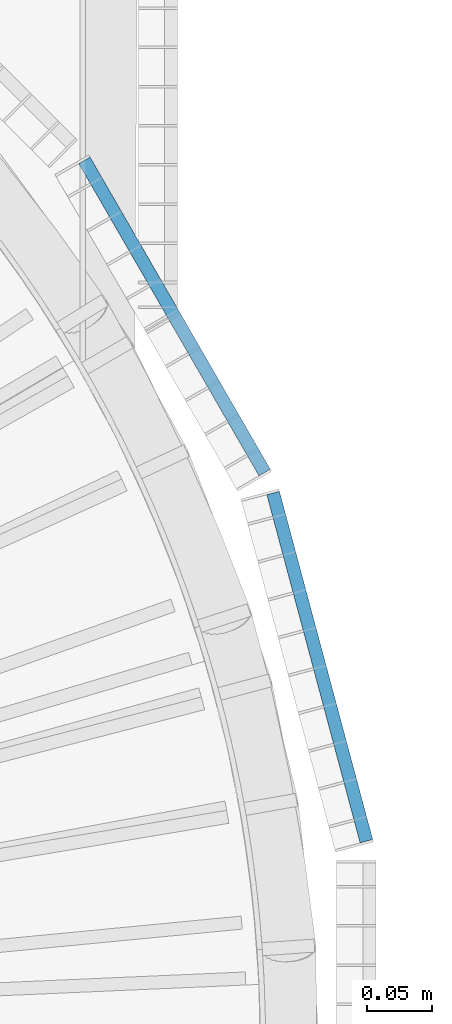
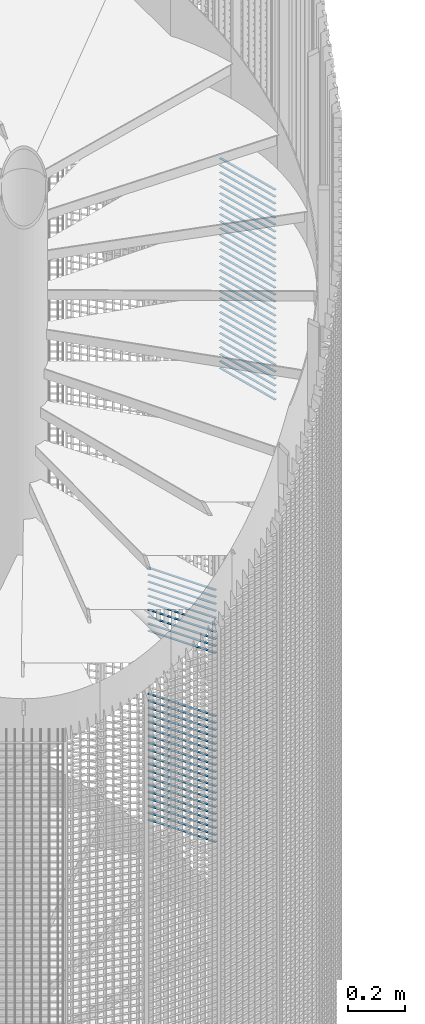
# One storey, part 288 of 1148: 60 beams, 2 elements without a shape of their own.
"""IFC2X3 building model written with IfcOpenShell, lengths in millimetres."""

from ifc_helpers import new_model, si_unit, frame, origin_with_axes, origin_2d_with_axis, place, context, subcontext, project, spatial, rectangle, extrude, material, type_object, element, aggregate, save


model = new_model("IFC2X3")

# Units and contexts
model_context = context("Model", 3, precision=1e-05, world=origin_with_axes())
body_context = subcontext(model_context, "Body", "Model", "MODEL_VIEW")
ifc_project = project(units=[si_unit("LENGTHUNIT", "METRE", prefix="MILLI"), si_unit("AREAUNIT", "SQUARE_METRE"), si_unit("VOLUMEUNIT", "CUBIC_METRE"), si_unit("MASSUNIT", "GRAM", prefix="KILO"), si_unit("TIMEUNIT", "SECOND"), si_unit("PLANEANGLEUNIT", "RADIAN"), si_unit("SOLIDANGLEUNIT", "STERADIAN"), si_unit("THERMODYNAMICTEMPERATUREUNIT", "DEGREE_CELSIUS"), si_unit("LUMINOUSINTENSITYUNIT", "LUMEN")], contexts=[model_context])

# Site, building, storey
site_placement = place(None, origin_with_axes())
site = spatial("IfcSite", under=ifc_project, at=site_placement, Name="Undefined", CompositionType="ELEMENT")
building_placement = place(site_placement, origin_with_axes())
building = spatial("IfcBuilding", under=site, at=building_placement, Name="Undefined", CompositionType="ELEMENT")
storey_placement = place(building_placement, origin_with_axes())
storey = spatial("IfcBuildingStorey", under=building, at=storey_placement, Name="Undefined", CompositionType="ELEMENT", Elevation=0.0)

# Assembly, beams
assembly_1_placement = place(storey_placement, origin_with_axes())
assembly_1 = element("IfcElementAssembly", 1, at=assembly_1_placement, inside=storey, Name="BORDURE", AssemblyPlace="NOTDEFINED", PredefinedType="NOTDEFINED")
ifc_material = material(Name="STEEL/S235JR")
beam_type = type_object("IfcBeamType", Name="PL2*10", PredefinedType="NOTDEFINED")
beam_1_placement = place(assembly_1_placement, frame((1033.29996828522, 437.231955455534, 3570.0), z_axis=(0.866025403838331, 0.499999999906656, 0.0), x_axis=(-0.49999999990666, 0.866025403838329, 0.0)))
beam_1 = element("IfcBeam", 2, at=beam_1_placement, type_object=beam_type, material=ifc_material, Name="ENTRETOISE", context=body_context, shape_type="SweptSolid", body=[
    extrude(rectangle(XDim=2.0, YDim=10.0, at=origin_2d_with_axis()), frame((275.999999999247, 9.09494701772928e-13, 1.53210777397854e-14), z_axis=(-1.0, 0.0, 0.0), x_axis=(0.0, -1.0, 0.0)), (0.0, 0.0, 1.0), 276.0),
])
beam_2_placement = place(assembly_1_placement, frame((1033.29996828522, 437.231955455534, 3540.0), z_axis=(0.866025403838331, 0.499999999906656, 0.0), x_axis=(-0.49999999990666, 0.866025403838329, 0.0)))
beam_2 = element("IfcBeam", 3, at=beam_2_placement, type_object=beam_type, material=ifc_material, Name="ENTRETOISE", context=body_context, shape_type="SweptSolid", body=[
    extrude(rectangle(XDim=2.0, YDim=10.0, at=origin_2d_with_axis()), frame((275.999999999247, 9.09494701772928e-13, 1.53210777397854e-14), z_axis=(-1.0, 0.0, 0.0), x_axis=(0.0, -1.0, 0.0)), (0.0, 0.0, 1.0), 276.0),
])
beam_3_placement = place(assembly_1_placement, frame((1033.29996828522, 437.231955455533, 3840.0), z_axis=(0.866025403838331, 0.499999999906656, 0.0), x_axis=(-0.49999999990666, 0.866025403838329, 0.0)))
beam_3 = element("IfcBeam", 4, at=beam_3_placement, type_object=beam_type, material=ifc_material, Name="ENTRETOISE", context=body_context, shape_type="SweptSolid", body=[
    extrude(rectangle(XDim=2.0, YDim=10.0, at=origin_2d_with_axis()), frame((275.999999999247, 9.09494701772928e-13, 1.53210777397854e-14), z_axis=(-1.0, 0.0, 0.0), x_axis=(0.0, -1.0, 0.0)), (0.0, 0.0, 1.0), 276.0),
])
beam_4_placement = place(assembly_1_placement, frame((1033.29996828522, 437.231955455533, 3510.0), z_axis=(0.866025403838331, 0.499999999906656, 0.0), x_axis=(-0.49999999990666, 0.866025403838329, 0.0)))
beam_4 = element("IfcBeam", 5, at=beam_4_placement, type_object=beam_type, material=ifc_material, Name="ENTRETOISE", context=body_context, shape_type="SweptSolid", body=[
    extrude(rectangle(XDim=2.0, YDim=10.0, at=origin_2d_with_axis()), frame((275.999999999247, 9.09494701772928e-13, 1.53210777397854e-14), z_axis=(-1.0, 0.0, 0.0), x_axis=(0.0, -1.0, 0.0)), (0.0, 0.0, 1.0), 276.0),
])
beam_5_placement = place(assembly_1_placement, frame((1033.29996828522, 437.231955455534, 3480.0), z_axis=(0.866025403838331, 0.499999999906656, 0.0), x_axis=(-0.49999999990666, 0.866025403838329, 0.0)))
beam_5 = element("IfcBeam", 6, at=beam_5_placement, type_object=beam_type, material=ifc_material, Name="ENTRETOISE", context=body_context, shape_type="SweptSolid", body=[
    extrude(rectangle(XDim=2.0, YDim=10.0, at=origin_2d_with_axis()), frame((275.999999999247, 9.09494701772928e-13, 1.53210777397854e-14), z_axis=(-1.0, 0.0, 0.0), x_axis=(0.0, -1.0, 0.0)), (0.0, 0.0, 1.0), 276.0),
])
beam_6_placement = place(assembly_1_placement, frame((1033.29996828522, 437.231955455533, 3870.0), z_axis=(0.866025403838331, 0.499999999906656, 0.0), x_axis=(-0.49999999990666, 0.866025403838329, 0.0)))
beam_6 = element("IfcBeam", 7, at=beam_6_placement, type_object=beam_type, material=ifc_material, Name="ENTRETOISE", context=body_context, shape_type="SweptSolid", body=[
    extrude(rectangle(XDim=2.0, YDim=10.0, at=origin_2d_with_axis()), frame((275.999999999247, 9.09494701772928e-13, 1.53210777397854e-14), z_axis=(-1.0, 0.0, 0.0), x_axis=(0.0, -1.0, 0.0)), (0.0, 0.0, 1.0), 276.0),
])
beam_7_placement = place(assembly_1_placement, frame((1033.29996828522, 437.231955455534, 3450.0), z_axis=(0.866025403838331, 0.499999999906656, 0.0), x_axis=(-0.49999999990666, 0.866025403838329, 0.0)))
beam_7 = element("IfcBeam", 8, at=beam_7_placement, type_object=beam_type, material=ifc_material, Name="ENTRETOISE", context=body_context, shape_type="SweptSolid", body=[
    extrude(rectangle(XDim=2.0, YDim=10.0, at=origin_2d_with_axis()), frame((275.999999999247, 9.09494701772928e-13, 1.53210777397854e-14), z_axis=(-1.0, 0.0, 0.0), x_axis=(0.0, -1.0, 0.0)), (0.0, 0.0, 1.0), 276.0),
])
beam_8_placement = place(assembly_1_placement, frame((1033.29996828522, 437.231955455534, 3420.0), z_axis=(0.866025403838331, 0.499999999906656, 0.0), x_axis=(-0.49999999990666, 0.866025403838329, 0.0)))
beam_8 = element("IfcBeam", 9, at=beam_8_placement, type_object=beam_type, material=ifc_material, Name="ENTRETOISE", context=body_context, shape_type="SweptSolid", body=[
    extrude(rectangle(XDim=2.0, YDim=10.0, at=origin_2d_with_axis()), frame((275.999999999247, 9.09494701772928e-13, 1.53210777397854e-14), z_axis=(-1.0, 0.0, 0.0), x_axis=(0.0, -1.0, 0.0)), (0.0, 0.0, 1.0), 276.0),
])
beam_9_placement = place(assembly_1_placement, frame((1033.29996828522, 437.231955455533, 3900.0), z_axis=(0.866025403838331, 0.499999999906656, 0.0), x_axis=(-0.49999999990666, 0.866025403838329, 0.0)))
beam_9 = element("IfcBeam", 10, at=beam_9_placement, type_object=beam_type, material=ifc_material, Name="ENTRETOISE", context=body_context, shape_type="SweptSolid", body=[
    extrude(rectangle(XDim=2.0, YDim=10.0, at=origin_2d_with_axis()), frame((275.999999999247, 9.09494701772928e-13, 1.53210777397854e-14), z_axis=(-1.0, 0.0, 0.0), x_axis=(0.0, -1.0, 0.0)), (0.0, 0.0, 1.0), 276.0),
])
beam_10_placement = place(assembly_1_placement, frame((1033.29996828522, 437.231955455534, 3390.0), z_axis=(0.866025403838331, 0.499999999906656, 0.0), x_axis=(-0.49999999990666, 0.866025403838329, 0.0)))
beam_10 = element("IfcBeam", 11, at=beam_10_placement, type_object=beam_type, material=ifc_material, Name="ENTRETOISE", context=body_context, shape_type="SweptSolid", body=[
    extrude(rectangle(XDim=2.0, YDim=10.0, at=origin_2d_with_axis()), frame((275.999999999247, 9.09494701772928e-13, 1.53210777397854e-14), z_axis=(-1.0, 0.0, 0.0), x_axis=(0.0, -1.0, 0.0)), (0.0, 0.0, 1.0), 276.0),
])
beam_11_placement = place(assembly_1_placement, frame((1033.29996828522, 437.231955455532, 3930.0), z_axis=(0.866025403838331, 0.499999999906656, 0.0), x_axis=(-0.49999999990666, 0.866025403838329, 0.0)))
beam_11 = element("IfcBeam", 12, at=beam_11_placement, type_object=beam_type, material=ifc_material, Name="ENTRETOISE", context=body_context, shape_type="SweptSolid", body=[
    extrude(rectangle(XDim=2.0, YDim=10.0, at=origin_2d_with_axis()), frame((275.999999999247, 9.09494701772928e-13, 1.53210777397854e-14), z_axis=(-1.0, 0.0, 0.0), x_axis=(0.0, -1.0, 0.0)), (0.0, 0.0, 1.0), 276.0),
])
beam_12_placement = place(assembly_1_placement, frame((1033.29996828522, 437.231955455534, 3360.0), z_axis=(0.866025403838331, 0.499999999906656, 0.0), x_axis=(-0.49999999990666, 0.866025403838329, 0.0)))
beam_12 = element("IfcBeam", 13, at=beam_12_placement, type_object=beam_type, material=ifc_material, Name="ENTRETOISE", context=body_context, shape_type="SweptSolid", body=[
    extrude(rectangle(XDim=2.0, YDim=10.0, at=origin_2d_with_axis()), frame((275.999999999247, 9.09494701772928e-13, 1.53210777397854e-14), z_axis=(-1.0, 0.0, 0.0), x_axis=(0.0, -1.0, 0.0)), (0.0, 0.0, 1.0), 276.0),
])
beam_13_placement = place(assembly_1_placement, frame((1033.29996828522, 437.231955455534, 3330.0), z_axis=(0.866025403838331, 0.499999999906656, 0.0), x_axis=(-0.49999999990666, 0.866025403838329, 0.0)))
beam_13 = element("IfcBeam", 14, at=beam_13_placement, type_object=beam_type, material=ifc_material, Name="ENTRETOISE", context=body_context, shape_type="SweptSolid", body=[
    extrude(rectangle(XDim=2.0, YDim=10.0, at=origin_2d_with_axis()), frame((275.999999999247, 9.09494701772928e-13, 1.53210777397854e-14), z_axis=(-1.0, 0.0, 0.0), x_axis=(0.0, -1.0, 0.0)), (0.0, 0.0, 1.0), 276.0),
])
beam_14_placement = place(assembly_1_placement, frame((1033.29996828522, 437.231955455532, 3960.0), z_axis=(0.866025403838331, 0.499999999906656, 0.0), x_axis=(-0.49999999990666, 0.866025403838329, 0.0)))
beam_14 = element("IfcBeam", 15, at=beam_14_placement, type_object=beam_type, material=ifc_material, Name="ENTRETOISE", context=body_context, shape_type="SweptSolid", body=[
    extrude(rectangle(XDim=2.0, YDim=10.0, at=origin_2d_with_axis()), frame((275.999999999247, 9.09494701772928e-13, 1.53210777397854e-14), z_axis=(-1.0, 0.0, 0.0), x_axis=(0.0, -1.0, 0.0)), (0.0, 0.0, 1.0), 276.0),
])
beam_15_placement = place(assembly_1_placement, frame((1033.29996828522, 437.231955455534, 3300.0), z_axis=(0.866025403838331, 0.499999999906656, 0.0), x_axis=(-0.49999999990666, 0.866025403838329, 0.0)))
beam_15 = element("IfcBeam", 16, at=beam_15_placement, type_object=beam_type, material=ifc_material, Name="ENTRETOISE", context=body_context, shape_type="SweptSolid", body=[
    extrude(rectangle(XDim=2.0, YDim=10.0, at=origin_2d_with_axis()), frame((275.999999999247, 9.09494701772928e-13, 1.53210777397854e-14), z_axis=(-1.0, 0.0, 0.0), x_axis=(0.0, -1.0, 0.0)), (0.0, 0.0, 1.0), 276.0),
])
beam_16_placement = place(assembly_1_placement, frame((1033.29996828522, 437.231955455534, 3270.0), z_axis=(0.866025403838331, 0.499999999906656, 0.0), x_axis=(-0.49999999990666, 0.866025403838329, 0.0)))
beam_16 = element("IfcBeam", 17, at=beam_16_placement, type_object=beam_type, material=ifc_material, Name="ENTRETOISE", context=body_context, shape_type="SweptSolid", body=[
    extrude(rectangle(XDim=2.0, YDim=10.0, at=origin_2d_with_axis()), frame((275.999999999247, 9.09494701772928e-13, 1.53210777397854e-14), z_axis=(-1.0, 0.0, 0.0), x_axis=(0.0, -1.0, 0.0)), (0.0, 0.0, 1.0), 276.0),
])
beam_17_placement = place(assembly_1_placement, frame((1033.29996828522, 437.231955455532, 3990.0), z_axis=(0.866025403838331, 0.499999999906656, 0.0), x_axis=(-0.49999999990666, 0.866025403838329, 0.0)))
beam_17 = element("IfcBeam", 18, at=beam_17_placement, type_object=beam_type, material=ifc_material, Name="ENTRETOISE", context=body_context, shape_type="SweptSolid", body=[
    extrude(rectangle(XDim=2.0, YDim=10.0, at=origin_2d_with_axis()), frame((275.999999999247, 9.09494701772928e-13, 1.53210777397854e-14), z_axis=(-1.0, 0.0, 0.0), x_axis=(0.0, -1.0, 0.0)), (0.0, 0.0, 1.0), 276.0),
])
beam_18_placement = place(assembly_1_placement, frame((1033.29996828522, 437.231955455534, 3240.0), z_axis=(0.866025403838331, 0.499999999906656, 0.0), x_axis=(-0.49999999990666, 0.866025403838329, 0.0)))
beam_18 = element("IfcBeam", 19, at=beam_18_placement, type_object=beam_type, material=ifc_material, Name="ENTRETOISE", context=body_context, shape_type="SweptSolid", body=[
    extrude(rectangle(XDim=2.0, YDim=10.0, at=origin_2d_with_axis()), frame((275.999999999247, 9.09494701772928e-13, 1.53210777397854e-14), z_axis=(-1.0, 0.0, 0.0), x_axis=(0.0, -1.0, 0.0)), (0.0, 0.0, 1.0), 276.0),
])
beam_19_placement = place(assembly_1_placement, frame((1033.29996828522, 437.231955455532, 4020.0), z_axis=(0.866025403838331, 0.499999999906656, 0.0), x_axis=(-0.49999999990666, 0.866025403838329, 0.0)))
beam_19 = element("IfcBeam", 20, at=beam_19_placement, type_object=beam_type, material=ifc_material, Name="ENTRETOISE", context=body_context, shape_type="SweptSolid", body=[
    extrude(rectangle(XDim=2.0, YDim=10.0, at=origin_2d_with_axis()), frame((275.999999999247, 9.09494701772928e-13, 1.53210777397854e-14), z_axis=(-1.0, 0.0, 0.0), x_axis=(0.0, -1.0, 0.0)), (0.0, 0.0, 1.0), 276.0),
])
beam_20_placement = place(assembly_1_placement, frame((1033.29996828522, 437.231955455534, 3210.0), z_axis=(0.866025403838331, 0.499999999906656, 0.0), x_axis=(-0.49999999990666, 0.866025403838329, 0.0)))
beam_20 = element("IfcBeam", 21, at=beam_20_placement, type_object=beam_type, material=ifc_material, Name="ENTRETOISE", context=body_context, shape_type="SweptSolid", body=[
    extrude(rectangle(XDim=2.0, YDim=10.0, at=origin_2d_with_axis()), frame((275.999999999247, 9.09494701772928e-13, 1.53210777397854e-14), z_axis=(-1.0, 0.0, 0.0), x_axis=(0.0, -1.0, 0.0)), (0.0, 0.0, 1.0), 276.0),
])
beam_21_placement = place(assembly_1_placement, frame((1033.29996828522, 437.231955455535, 3180.0), z_axis=(0.866025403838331, 0.499999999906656, 0.0), x_axis=(-0.49999999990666, 0.866025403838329, 0.0)))
beam_21 = element("IfcBeam", 22, at=beam_21_placement, type_object=beam_type, material=ifc_material, Name="ENTRETOISE", context=body_context, shape_type="SweptSolid", body=[
    extrude(rectangle(XDim=2.0, YDim=10.0, at=origin_2d_with_axis()), frame((275.999999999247, 9.09494701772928e-13, 1.53210777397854e-14), z_axis=(-1.0, 0.0, 0.0), x_axis=(0.0, -1.0, 0.0)), (0.0, 0.0, 1.0), 276.0),
])
beam_22_placement = place(assembly_1_placement, frame((1033.29996828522, 437.231955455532, 4050.0), z_axis=(0.866025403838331, 0.499999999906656, 0.0), x_axis=(-0.49999999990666, 0.866025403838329, 0.0)))
beam_22 = element("IfcBeam", 23, at=beam_22_placement, type_object=beam_type, material=ifc_material, Name="ENTRETOISE", context=body_context, shape_type="SweptSolid", body=[
    extrude(rectangle(XDim=2.0, YDim=10.0, at=origin_2d_with_axis()), frame((275.999999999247, 9.09494701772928e-13, 1.53210777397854e-14), z_axis=(-1.0, 0.0, 0.0), x_axis=(0.0, -1.0, 0.0)), (0.0, 0.0, 1.0), 276.0),
])
beam_23_placement = place(assembly_1_placement, frame((1033.29996828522, 437.231955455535, 3150.0), z_axis=(0.866025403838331, 0.499999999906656, 0.0), x_axis=(-0.49999999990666, 0.866025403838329, 0.0)))
beam_23 = element("IfcBeam", 24, at=beam_23_placement, type_object=beam_type, material=ifc_material, Name="ENTRETOISE", context=body_context, shape_type="SweptSolid", body=[
    extrude(rectangle(XDim=2.0, YDim=10.0, at=origin_2d_with_axis()), frame((275.999999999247, 9.09494701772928e-13, 1.53210777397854e-14), z_axis=(-1.0, 0.0, 0.0), x_axis=(0.0, -1.0, 0.0)), (0.0, 0.0, 1.0), 276.0),
])
beam_24_placement = place(assembly_1_placement, frame((1033.29996828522, 437.231955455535, 3120.0), z_axis=(0.866025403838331, 0.499999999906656, 0.0), x_axis=(-0.49999999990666, 0.866025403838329, 0.0)))
beam_24 = element("IfcBeam", 25, at=beam_24_placement, type_object=beam_type, material=ifc_material, Name="ENTRETOISE", context=body_context, shape_type="SweptSolid", body=[
    extrude(rectangle(XDim=2.0, YDim=10.0, at=origin_2d_with_axis()), frame((275.999999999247, 9.09494701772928e-13, 1.53210777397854e-14), z_axis=(-1.0, 0.0, 0.0), x_axis=(0.0, -1.0, 0.0)), (0.0, 0.0, 1.0), 276.0),
])
beam_25_placement = place(assembly_1_placement, frame((1033.29996828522, 437.231955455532, 4080.0), z_axis=(0.866025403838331, 0.499999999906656, 0.0), x_axis=(-0.49999999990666, 0.866025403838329, 0.0)))
beam_25 = element("IfcBeam", 26, at=beam_25_placement, type_object=beam_type, material=ifc_material, Name="ENTRETOISE", context=body_context, shape_type="SweptSolid", body=[
    extrude(rectangle(XDim=2.0, YDim=10.0, at=origin_2d_with_axis()), frame((275.999999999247, 9.09494701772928e-13, 1.53210777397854e-14), z_axis=(-1.0, 0.0, 0.0), x_axis=(0.0, -1.0, 0.0)), (0.0, 0.0, 1.0), 276.0),
])
beam_26_placement = place(assembly_1_placement, frame((1033.29996828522, 437.231955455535, 3090.0), z_axis=(0.866025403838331, 0.499999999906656, 0.0), x_axis=(-0.49999999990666, 0.866025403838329, 0.0)))
beam_26 = element("IfcBeam", 27, at=beam_26_placement, type_object=beam_type, material=ifc_material, Name="ENTRETOISE", context=body_context, shape_type="SweptSolid", body=[
    extrude(rectangle(XDim=2.0, YDim=10.0, at=origin_2d_with_axis()), frame((275.999999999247, 9.09494701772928e-13, 1.53210777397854e-14), z_axis=(-1.0, 0.0, 0.0), x_axis=(0.0, -1.0, 0.0)), (0.0, 0.0, 1.0), 276.0),
])
beam_27_placement = place(assembly_1_placement, frame((1033.29996828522, 437.231955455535, 3060.0), z_axis=(0.866025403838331, 0.499999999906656, 0.0), x_axis=(-0.49999999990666, 0.866025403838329, 0.0)))
beam_27 = element("IfcBeam", 28, at=beam_27_placement, type_object=beam_type, material=ifc_material, Name="ENTRETOISE", context=body_context, shape_type="SweptSolid", body=[
    extrude(rectangle(XDim=2.0, YDim=10.0, at=origin_2d_with_axis()), frame((275.999999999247, 9.09494701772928e-13, 1.53210777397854e-14), z_axis=(-1.0, 0.0, 0.0), x_axis=(0.0, -1.0, 0.0)), (0.0, 0.0, 1.0), 276.0),
])
beam_28_placement = place(assembly_1_placement, frame((1033.29996828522, 437.231955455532, 4110.0), z_axis=(0.866025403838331, 0.499999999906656, 0.0), x_axis=(-0.49999999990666, 0.866025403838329, 0.0)))
beam_28 = element("IfcBeam", 29, at=beam_28_placement, type_object=beam_type, material=ifc_material, Name="ENTRETOISE", context=body_context, shape_type="SweptSolid", body=[
    extrude(rectangle(XDim=2.0, YDim=10.0, at=origin_2d_with_axis()), frame((275.999999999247, 9.09494701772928e-13, 1.53210777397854e-14), z_axis=(-1.0, 0.0, 0.0), x_axis=(0.0, -1.0, 0.0)), (0.0, 0.0, 1.0), 276.0),
])
beam_29_placement = place(assembly_1_placement, frame((1033.29996828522, 437.231955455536, 3030.0), z_axis=(0.866025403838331, 0.499999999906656, 0.0), x_axis=(-0.49999999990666, 0.866025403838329, 0.0)))
beam_29 = element("IfcBeam", 30, at=beam_29_placement, type_object=beam_type, material=ifc_material, Name="ENTRETOISE", context=body_context, shape_type="SweptSolid", body=[
    extrude(rectangle(XDim=2.0, YDim=10.0, at=origin_2d_with_axis()), frame((275.999999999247, 9.09494701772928e-13, 1.53210777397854e-14), z_axis=(-1.0, 0.0, 0.0), x_axis=(0.0, -1.0, 0.0)), (0.0, 0.0, 1.0), 276.0),
])
aggregate(assembly_1, [beam_1, beam_2, beam_3, beam_4, beam_5, beam_6, beam_7, beam_8, beam_9, beam_10, beam_11, beam_12, beam_13, beam_14, beam_15, beam_16, beam_17, beam_18, beam_19, beam_20, beam_21, beam_22, beam_23, beam_24, beam_25, beam_26, beam_27, beam_28, beam_29])

assembly_2_placement = place(storey_placement, origin_with_axes())
assembly_2 = element("IfcElementAssembly", 31, at=assembly_2_placement, inside=storey, Name="BORDURE", AssemblyPlace="NOTDEFINED", PredefinedType="NOTDEFINED")
beam_30_placement = place(assembly_2_placement, frame((1111.25508286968, 154.895926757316, 5970.0), z_axis=(0.965925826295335, 0.258819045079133, 0.0), x_axis=(-0.258819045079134, 0.965925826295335, 0.0)))
beam_30 = element("IfcBeam", 32, at=beam_30_placement, type_object=beam_type, material=ifc_material, Name="ENTRETOISE", context=body_context, shape_type="SweptSolid", body=[
    extrude(rectangle(XDim=2.0, YDim=10.0, at=origin_2d_with_axis()), frame((275.999999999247, 9.09494701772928e-13, 1.53210777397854e-14), z_axis=(-1.0, 0.0, 0.0), x_axis=(0.0, -1.0, 0.0)), (0.0, 0.0, 1.0), 276.0),
])
beam_31_placement = place(assembly_2_placement, frame((1111.25508286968, 154.895926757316, 5940.0), z_axis=(0.965925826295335, 0.258819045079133, 0.0), x_axis=(-0.258819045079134, 0.965925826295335, 0.0)))
beam_31 = element("IfcBeam", 33, at=beam_31_placement, type_object=beam_type, material=ifc_material, Name="ENTRETOISE", context=body_context, shape_type="SweptSolid", body=[
    extrude(rectangle(XDim=2.0, YDim=10.0, at=origin_2d_with_axis()), frame((275.999999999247, 9.09494701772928e-13, 1.53210777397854e-14), z_axis=(-1.0, 0.0, 0.0), x_axis=(0.0, -1.0, 0.0)), (0.0, 0.0, 1.0), 276.0),
])
beam_32_placement = place(assembly_2_placement, frame((1111.25508286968, 154.895926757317, 5910.0), z_axis=(0.965925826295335, 0.258819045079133, 0.0), x_axis=(-0.258819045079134, 0.965925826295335, 0.0)))
beam_32 = element("IfcBeam", 34, at=beam_32_placement, type_object=beam_type, material=ifc_material, Name="ENTRETOISE", context=body_context, shape_type="SweptSolid", body=[
    extrude(rectangle(XDim=2.0, YDim=10.0, at=origin_2d_with_axis()), frame((275.999999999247, 9.09494701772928e-13, 1.53210777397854e-14), z_axis=(-1.0, 0.0, 0.0), x_axis=(0.0, -1.0, 0.0)), (0.0, 0.0, 1.0), 276.0),
])
beam_33_placement = place(assembly_2_placement, frame((1111.25508286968, 154.895926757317, 5880.0), z_axis=(0.965925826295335, 0.258819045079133, 0.0), x_axis=(-0.258819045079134, 0.965925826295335, 0.0)))
beam_33 = element("IfcBeam", 35, at=beam_33_placement, type_object=beam_type, material=ifc_material, Name="ENTRETOISE", context=body_context, shape_type="SweptSolid", body=[
    extrude(rectangle(XDim=2.0, YDim=10.0, at=origin_2d_with_axis()), frame((275.999999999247, 9.09494701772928e-13, 1.53210777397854e-14), z_axis=(-1.0, 0.0, 0.0), x_axis=(0.0, -1.0, 0.0)), (0.0, 0.0, 1.0), 276.0),
])
beam_34_placement = place(assembly_2_placement, frame((1111.25508286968, 154.895926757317, 5850.0), z_axis=(0.965925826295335, 0.258819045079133, 0.0), x_axis=(-0.258819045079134, 0.965925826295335, 0.0)))
beam_34 = element("IfcBeam", 36, at=beam_34_placement, type_object=beam_type, material=ifc_material, Name="ENTRETOISE", context=body_context, shape_type="SweptSolid", body=[
    extrude(rectangle(XDim=2.0, YDim=10.0, at=origin_2d_with_axis()), frame((275.999999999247, 9.09494701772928e-13, 1.53210777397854e-14), z_axis=(-1.0, 0.0, 0.0), x_axis=(0.0, -1.0, 0.0)), (0.0, 0.0, 1.0), 276.0),
])
beam_35_placement = place(assembly_2_placement, frame((1111.25508286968, 154.895926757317, 5820.0), z_axis=(0.965925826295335, 0.258819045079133, 0.0), x_axis=(-0.258819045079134, 0.965925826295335, 0.0)))
beam_35 = element("IfcBeam", 37, at=beam_35_placement, type_object=beam_type, material=ifc_material, Name="ENTRETOISE", context=body_context, shape_type="SweptSolid", body=[
    extrude(rectangle(XDim=2.0, YDim=10.0, at=origin_2d_with_axis()), frame((275.999999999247, 9.09494701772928e-13, 1.53210777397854e-14), z_axis=(-1.0, 0.0, 0.0), x_axis=(0.0, -1.0, 0.0)), (0.0, 0.0, 1.0), 276.0),
])
beam_36_placement = place(assembly_2_placement, frame((1111.25508286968, 154.895926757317, 5790.0), z_axis=(0.965925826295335, 0.258819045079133, 0.0), x_axis=(-0.258819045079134, 0.965925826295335, 0.0)))
beam_36 = element("IfcBeam", 38, at=beam_36_placement, type_object=beam_type, material=ifc_material, Name="ENTRETOISE", context=body_context, shape_type="SweptSolid", body=[
    extrude(rectangle(XDim=2.0, YDim=10.0, at=origin_2d_with_axis()), frame((275.999999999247, 9.09494701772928e-13, 1.53210777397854e-14), z_axis=(-1.0, 0.0, 0.0), x_axis=(0.0, -1.0, 0.0)), (0.0, 0.0, 1.0), 276.0),
])
beam_37_placement = place(assembly_2_placement, frame((1111.25508286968, 154.895926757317, 5760.0), z_axis=(0.965925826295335, 0.258819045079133, 0.0), x_axis=(-0.258819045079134, 0.965925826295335, 0.0)))
beam_37 = element("IfcBeam", 39, at=beam_37_placement, type_object=beam_type, material=ifc_material, Name="ENTRETOISE", context=body_context, shape_type="SweptSolid", body=[
    extrude(rectangle(XDim=2.0, YDim=10.0, at=origin_2d_with_axis()), frame((275.999999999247, 9.09494701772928e-13, 1.53210777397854e-14), z_axis=(-1.0, 0.0, 0.0), x_axis=(0.0, -1.0, 0.0)), (0.0, 0.0, 1.0), 276.0),
])
beam_38_placement = place(assembly_2_placement, frame((1111.25508286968, 154.895926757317, 5730.0), z_axis=(0.965925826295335, 0.258819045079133, 0.0), x_axis=(-0.258819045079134, 0.965925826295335, 0.0)))
beam_38 = element("IfcBeam", 40, at=beam_38_placement, type_object=beam_type, material=ifc_material, Name="ENTRETOISE", context=body_context, shape_type="SweptSolid", body=[
    extrude(rectangle(XDim=2.0, YDim=10.0, at=origin_2d_with_axis()), frame((275.999999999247, 9.09494701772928e-13, 1.53210777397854e-14), z_axis=(-1.0, 0.0, 0.0), x_axis=(0.0, -1.0, 0.0)), (0.0, 0.0, 1.0), 276.0),
])
beam_39_placement = place(assembly_2_placement, frame((1111.25508286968, 154.895926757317, 5700.0), z_axis=(0.965925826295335, 0.258819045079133, 0.0), x_axis=(-0.258819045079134, 0.965925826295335, 0.0)))
beam_39 = element("IfcBeam", 41, at=beam_39_placement, type_object=beam_type, material=ifc_material, Name="ENTRETOISE", context=body_context, shape_type="SweptSolid", body=[
    extrude(rectangle(XDim=2.0, YDim=10.0, at=origin_2d_with_axis()), frame((275.999999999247, 9.09494701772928e-13, 1.53210777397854e-14), z_axis=(-1.0, 0.0, 0.0), x_axis=(0.0, -1.0, 0.0)), (0.0, 0.0, 1.0), 276.0),
])
beam_40_placement = place(assembly_2_placement, frame((1111.25508286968, 154.895926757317, 5670.0), z_axis=(0.965925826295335, 0.258819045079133, 0.0), x_axis=(-0.258819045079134, 0.965925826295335, 0.0)))
beam_40 = element("IfcBeam", 42, at=beam_40_placement, type_object=beam_type, material=ifc_material, Name="ENTRETOISE", context=body_context, shape_type="SweptSolid", body=[
    extrude(rectangle(XDim=2.0, YDim=10.0, at=origin_2d_with_axis()), frame((275.999999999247, 9.09494701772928e-13, 1.53210777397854e-14), z_axis=(-1.0, 0.0, 0.0), x_axis=(0.0, -1.0, 0.0)), (0.0, 0.0, 1.0), 276.0),
])
beam_41_placement = place(assembly_2_placement, frame((1111.25508286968, 154.895926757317, 5640.0), z_axis=(0.965925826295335, 0.258819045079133, 0.0), x_axis=(-0.258819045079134, 0.965925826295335, 0.0)))
beam_41 = element("IfcBeam", 43, at=beam_41_placement, type_object=beam_type, material=ifc_material, Name="ENTRETOISE", context=body_context, shape_type="SweptSolid", body=[
    extrude(rectangle(XDim=2.0, YDim=10.0, at=origin_2d_with_axis()), frame((275.999999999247, 9.09494701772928e-13, 1.53210777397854e-14), z_axis=(-1.0, 0.0, 0.0), x_axis=(0.0, -1.0, 0.0)), (0.0, 0.0, 1.0), 276.0),
])
beam_42_placement = place(assembly_2_placement, frame((1111.25508286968, 154.895926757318, 5610.0), z_axis=(0.965925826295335, 0.258819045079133, 0.0), x_axis=(-0.258819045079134, 0.965925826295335, 0.0)))
beam_42 = element("IfcBeam", 44, at=beam_42_placement, type_object=beam_type, material=ifc_material, Name="ENTRETOISE", context=body_context, shape_type="SweptSolid", body=[
    extrude(rectangle(XDim=2.0, YDim=10.0, at=origin_2d_with_axis()), frame((275.999999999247, 9.09494701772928e-13, 1.53210777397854e-14), z_axis=(-1.0, 0.0, 0.0), x_axis=(0.0, -1.0, 0.0)), (0.0, 0.0, 1.0), 276.0),
])
beam_43_placement = place(assembly_2_placement, frame((1111.25508286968, 154.895926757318, 5580.0), z_axis=(0.965925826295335, 0.258819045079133, 0.0), x_axis=(-0.258819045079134, 0.965925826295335, 0.0)))
beam_43 = element("IfcBeam", 45, at=beam_43_placement, type_object=beam_type, material=ifc_material, Name="ENTRETOISE", context=body_context, shape_type="SweptSolid", body=[
    extrude(rectangle(XDim=2.0, YDim=10.0, at=origin_2d_with_axis()), frame((275.999999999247, 9.09494701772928e-13, 1.53210777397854e-14), z_axis=(-1.0, 0.0, 0.0), x_axis=(0.0, -1.0, 0.0)), (0.0, 0.0, 1.0), 276.0),
])
beam_44_placement = place(assembly_2_placement, frame((1111.25508286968, 154.895926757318, 5550.0), z_axis=(0.965925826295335, 0.258819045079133, 0.0), x_axis=(-0.258819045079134, 0.965925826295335, 0.0)))
beam_44 = element("IfcBeam", 46, at=beam_44_placement, type_object=beam_type, material=ifc_material, Name="ENTRETOISE", context=body_context, shape_type="SweptSolid", body=[
    extrude(rectangle(XDim=2.0, YDim=10.0, at=origin_2d_with_axis()), frame((275.999999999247, 9.09494701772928e-13, 1.53210777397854e-14), z_axis=(-1.0, 0.0, 0.0), x_axis=(0.0, -1.0, 0.0)), (0.0, 0.0, 1.0), 276.0),
])
beam_45_placement = place(assembly_2_placement, frame((1111.25508286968, 154.895926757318, 5520.0), z_axis=(0.965925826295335, 0.258819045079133, 0.0), x_axis=(-0.258819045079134, 0.965925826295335, 0.0)))
beam_45 = element("IfcBeam", 47, at=beam_45_placement, type_object=beam_type, material=ifc_material, Name="ENTRETOISE", context=body_context, shape_type="SweptSolid", body=[
    extrude(rectangle(XDim=2.0, YDim=10.0, at=origin_2d_with_axis()), frame((275.999999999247, 9.09494701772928e-13, 1.53210777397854e-14), z_axis=(-1.0, 0.0, 0.0), x_axis=(0.0, -1.0, 0.0)), (0.0, 0.0, 1.0), 276.0),
])
beam_46_placement = place(assembly_2_placement, frame((1111.25508286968, 154.895926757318, 5490.0), z_axis=(0.965925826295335, 0.258819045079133, 0.0), x_axis=(-0.258819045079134, 0.965925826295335, 0.0)))
beam_46 = element("IfcBeam", 48, at=beam_46_placement, type_object=beam_type, material=ifc_material, Name="ENTRETOISE", context=body_context, shape_type="SweptSolid", body=[
    extrude(rectangle(XDim=2.0, YDim=10.0, at=origin_2d_with_axis()), frame((275.999999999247, 9.09494701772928e-13, 1.53210777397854e-14), z_axis=(-1.0, 0.0, 0.0), x_axis=(0.0, -1.0, 0.0)), (0.0, 0.0, 1.0), 276.0),
])
beam_47_placement = place(assembly_2_placement, frame((1111.25508286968, 154.895926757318, 5460.0), z_axis=(0.965925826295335, 0.258819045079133, 0.0), x_axis=(-0.258819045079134, 0.965925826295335, 0.0)))
beam_47 = element("IfcBeam", 49, at=beam_47_placement, type_object=beam_type, material=ifc_material, Name="ENTRETOISE", context=body_context, shape_type="SweptSolid", body=[
    extrude(rectangle(XDim=2.0, YDim=10.0, at=origin_2d_with_axis()), frame((275.999999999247, 9.09494701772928e-13, 1.53210777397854e-14), z_axis=(-1.0, 0.0, 0.0), x_axis=(0.0, -1.0, 0.0)), (0.0, 0.0, 1.0), 276.0),
])
beam_48_placement = place(assembly_2_placement, frame((1111.25508286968, 154.895926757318, 5430.0), z_axis=(0.965925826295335, 0.258819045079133, 0.0), x_axis=(-0.258819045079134, 0.965925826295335, 0.0)))
beam_48 = element("IfcBeam", 50, at=beam_48_placement, type_object=beam_type, material=ifc_material, Name="ENTRETOISE", context=body_context, shape_type="SweptSolid", body=[
    extrude(rectangle(XDim=2.0, YDim=10.0, at=origin_2d_with_axis()), frame((275.999999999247, 9.09494701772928e-13, 1.53210777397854e-14), z_axis=(-1.0, 0.0, 0.0), x_axis=(0.0, -1.0, 0.0)), (0.0, 0.0, 1.0), 276.0),
])
beam_49_placement = place(assembly_2_placement, frame((1111.25508286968, 154.895926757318, 5400.0), z_axis=(0.965925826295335, 0.258819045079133, 0.0), x_axis=(-0.258819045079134, 0.965925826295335, 0.0)))
beam_49 = element("IfcBeam", 51, at=beam_49_placement, type_object=beam_type, material=ifc_material, Name="ENTRETOISE", context=body_context, shape_type="SweptSolid", body=[
    extrude(rectangle(XDim=2.0, YDim=10.0, at=origin_2d_with_axis()), frame((275.999999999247, 9.09494701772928e-13, 1.53210777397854e-14), z_axis=(-1.0, 0.0, 0.0), x_axis=(0.0, -1.0, 0.0)), (0.0, 0.0, 1.0), 276.0),
])
beam_50_placement = place(assembly_2_placement, frame((1111.25508286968, 154.895926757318, 5370.0), z_axis=(0.965925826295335, 0.258819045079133, 0.0), x_axis=(-0.258819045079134, 0.965925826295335, 0.0)))
beam_50 = element("IfcBeam", 52, at=beam_50_placement, type_object=beam_type, material=ifc_material, Name="ENTRETOISE", context=body_context, shape_type="SweptSolid", body=[
    extrude(rectangle(XDim=2.0, YDim=10.0, at=origin_2d_with_axis()), frame((275.999999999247, 9.09494701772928e-13, 1.53210777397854e-14), z_axis=(-1.0, 0.0, 0.0), x_axis=(0.0, -1.0, 0.0)), (0.0, 0.0, 1.0), 276.0),
])
beam_51_placement = place(assembly_2_placement, frame((1111.25508286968, 154.895926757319, 5340.0), z_axis=(0.965925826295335, 0.258819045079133, 0.0), x_axis=(-0.258819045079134, 0.965925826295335, 0.0)))
beam_51 = element("IfcBeam", 53, at=beam_51_placement, type_object=beam_type, material=ifc_material, Name="ENTRETOISE", context=body_context, shape_type="SweptSolid", body=[
    extrude(rectangle(XDim=2.0, YDim=10.0, at=origin_2d_with_axis()), frame((275.999999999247, 9.09494701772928e-13, 1.53210777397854e-14), z_axis=(-1.0, 0.0, 0.0), x_axis=(0.0, -1.0, 0.0)), (0.0, 0.0, 1.0), 276.0),
])
beam_52_placement = place(assembly_2_placement, frame((1111.25508286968, 154.895926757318, 5310.0), z_axis=(0.965925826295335, 0.258819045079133, 0.0), x_axis=(-0.258819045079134, 0.965925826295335, 0.0)))
beam_52 = element("IfcBeam", 54, at=beam_52_placement, type_object=beam_type, material=ifc_material, Name="ENTRETOISE", context=body_context, shape_type="SweptSolid", body=[
    extrude(rectangle(XDim=2.0, YDim=10.0, at=origin_2d_with_axis()), frame((275.999999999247, 9.09494701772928e-13, 1.53210777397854e-14), z_axis=(-1.0, 0.0, 0.0), x_axis=(0.0, -1.0, 0.0)), (0.0, 0.0, 1.0), 276.0),
])
beam_53_placement = place(assembly_2_placement, frame((1111.25508286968, 154.895926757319, 5280.0), z_axis=(0.965925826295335, 0.258819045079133, 0.0), x_axis=(-0.258819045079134, 0.965925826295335, 0.0)))
beam_53 = element("IfcBeam", 55, at=beam_53_placement, type_object=beam_type, material=ifc_material, Name="ENTRETOISE", context=body_context, shape_type="SweptSolid", body=[
    extrude(rectangle(XDim=2.0, YDim=10.0, at=origin_2d_with_axis()), frame((275.999999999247, 9.09494701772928e-13, 1.53210777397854e-14), z_axis=(-1.0, 0.0, 0.0), x_axis=(0.0, -1.0, 0.0)), (0.0, 0.0, 1.0), 276.0),
])
beam_54_placement = place(assembly_2_placement, frame((1111.25508286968, 154.895926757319, 5250.0), z_axis=(0.965925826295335, 0.258819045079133, 0.0), x_axis=(-0.258819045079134, 0.965925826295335, 0.0)))
beam_54 = element("IfcBeam", 56, at=beam_54_placement, type_object=beam_type, material=ifc_material, Name="ENTRETOISE", context=body_context, shape_type="SweptSolid", body=[
    extrude(rectangle(XDim=2.0, YDim=10.0, at=origin_2d_with_axis()), frame((275.999999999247, 9.09494701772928e-13, 1.53210777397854e-14), z_axis=(-1.0, 0.0, 0.0), x_axis=(0.0, -1.0, 0.0)), (0.0, 0.0, 1.0), 276.0),
])
beam_55_placement = place(assembly_2_placement, frame((1111.25508286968, 154.895926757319, 5220.0), z_axis=(0.965925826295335, 0.258819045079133, 0.0), x_axis=(-0.258819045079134, 0.965925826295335, 0.0)))
beam_55 = element("IfcBeam", 57, at=beam_55_placement, type_object=beam_type, material=ifc_material, Name="ENTRETOISE", context=body_context, shape_type="SweptSolid", body=[
    extrude(rectangle(XDim=2.0, YDim=10.0, at=origin_2d_with_axis()), frame((275.999999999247, 9.09494701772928e-13, 1.53210777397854e-14), z_axis=(-1.0, 0.0, 0.0), x_axis=(0.0, -1.0, 0.0)), (0.0, 0.0, 1.0), 276.0),
])
beam_56_placement = place(assembly_2_placement, frame((1111.25508286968, 154.895926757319, 5190.0), z_axis=(0.965925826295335, 0.258819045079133, 0.0), x_axis=(-0.258819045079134, 0.965925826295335, 0.0)))
beam_56 = element("IfcBeam", 58, at=beam_56_placement, type_object=beam_type, material=ifc_material, Name="ENTRETOISE", context=body_context, shape_type="SweptSolid", body=[
    extrude(rectangle(XDim=2.0, YDim=10.0, at=origin_2d_with_axis()), frame((275.999999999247, 9.09494701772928e-13, 1.53210777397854e-14), z_axis=(-1.0, 0.0, 0.0), x_axis=(0.0, -1.0, 0.0)), (0.0, 0.0, 1.0), 276.0),
])
beam_57_placement = place(assembly_2_placement, frame((1111.25508286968, 154.895926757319, 5160.0), z_axis=(0.965925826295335, 0.258819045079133, 0.0), x_axis=(-0.258819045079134, 0.965925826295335, 0.0)))
beam_57 = element("IfcBeam", 59, at=beam_57_placement, type_object=beam_type, material=ifc_material, Name="ENTRETOISE", context=body_context, shape_type="SweptSolid", body=[
    extrude(rectangle(XDim=2.0, YDim=10.0, at=origin_2d_with_axis()), frame((275.999999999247, 9.09494701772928e-13, 1.53210777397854e-14), z_axis=(-1.0, 0.0, 0.0), x_axis=(0.0, -1.0, 0.0)), (0.0, 0.0, 1.0), 276.0),
])
beam_58_placement = place(assembly_2_placement, frame((1111.25508286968, 154.895926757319, 5130.0), z_axis=(0.965925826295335, 0.258819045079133, 0.0), x_axis=(-0.258819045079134, 0.965925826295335, 0.0)))
beam_58 = element("IfcBeam", 60, at=beam_58_placement, type_object=beam_type, material=ifc_material, Name="ENTRETOISE", context=body_context, shape_type="SweptSolid", body=[
    extrude(rectangle(XDim=2.0, YDim=10.0, at=origin_2d_with_axis()), frame((275.999999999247, 9.09494701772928e-13, 1.53210777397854e-14), z_axis=(-1.0, 0.0, 0.0), x_axis=(0.0, -1.0, 0.0)), (0.0, 0.0, 1.0), 276.0),
])
beam_59_placement = place(assembly_2_placement, frame((1111.25508286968, 154.895926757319, 5100.0), z_axis=(0.965925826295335, 0.258819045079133, 0.0), x_axis=(-0.258819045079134, 0.965925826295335, 0.0)))
beam_59 = element("IfcBeam", 61, at=beam_59_placement, type_object=beam_type, material=ifc_material, Name="ENTRETOISE", context=body_context, shape_type="SweptSolid", body=[
    extrude(rectangle(XDim=2.0, YDim=10.0, at=origin_2d_with_axis()), frame((275.999999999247, 9.09494701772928e-13, 1.53210777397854e-14), z_axis=(-1.0, 0.0, 0.0), x_axis=(0.0, -1.0, 0.0)), (0.0, 0.0, 1.0), 276.0),
])
beam_60_placement = place(assembly_2_placement, frame((1111.25508286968, 154.895926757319, 5070.0), z_axis=(0.965925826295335, 0.258819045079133, 0.0), x_axis=(-0.258819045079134, 0.965925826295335, 0.0)))
beam_60 = element("IfcBeam", 62, at=beam_60_placement, type_object=beam_type, material=ifc_material, Name="ENTRETOISE", context=body_context, shape_type="SweptSolid", body=[
    extrude(rectangle(XDim=2.0, YDim=10.0, at=origin_2d_with_axis()), frame((275.999999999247, 9.09494701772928e-13, 1.53210777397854e-14), z_axis=(-1.0, 0.0, 0.0), x_axis=(0.0, -1.0, 0.0)), (0.0, 0.0, 1.0), 276.0),
])
aggregate(assembly_2, [beam_30, beam_31, beam_32, beam_33, beam_34, beam_35, beam_36, beam_37, beam_38, beam_39, beam_40, beam_41, beam_42, beam_43, beam_44, beam_45, beam_46, beam_47, beam_48, beam_49, beam_50, beam_51, beam_52, beam_53, beam_54, beam_55, beam_56, beam_57, beam_58, beam_59, beam_60])

save(model, "model.ifc")
